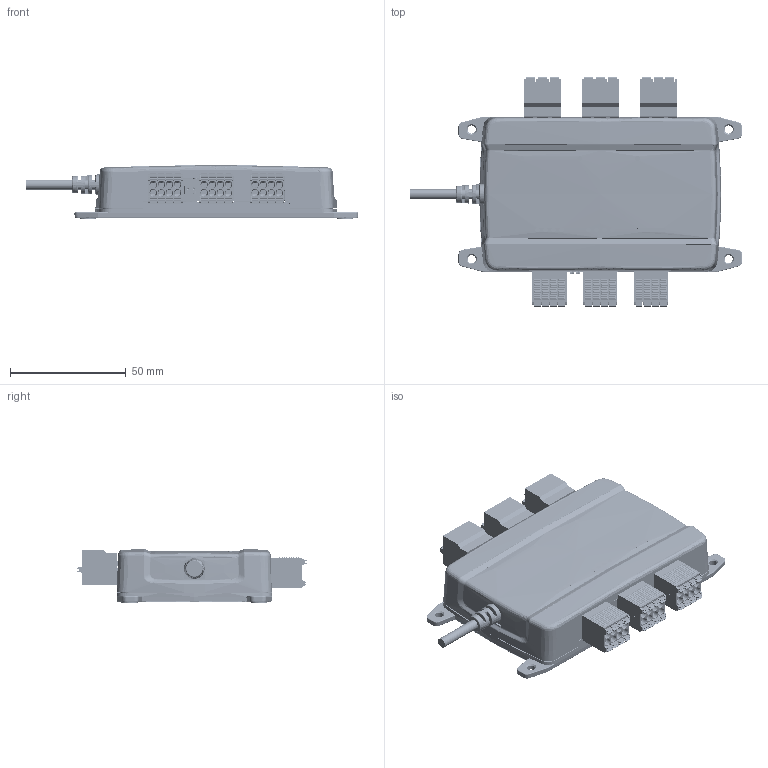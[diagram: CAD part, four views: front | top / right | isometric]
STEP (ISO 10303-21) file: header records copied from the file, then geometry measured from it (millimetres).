
FILE_DESCRIPTION (( 'STEP AP214' ), '1' );
FILE_NAME ('DimensionDrawing GX IO-Extender 150-rev00x-3D.STEP', '2025-06-23T08:51:54', ( '' ), ( '' ), 'SwSTEP 2.0', 'SolidWorks 2025', '' );
FILE_SCHEMA (( 'AUTOMOTIVE_DESIGN' ));
Length unit declared in the file: millimetre
Products named in the file (10): 15EDGKNH-3.5-08P-1Y-00A&Z(H); DimensionDrawing GX IO-Extender 150-rev00x-3D; WJ2EDGRC-THT-5.08-03Px; GX IO-Extender 150 A3 with Case; GX_IO-Extender_150_A2_Grommet; DS03-254-02; eBom-FreeParts; MK3-GROMMER; 15EDGRHC-THR-3.5-08P-1Y-1000Z(H)-PA; 2EDGKD-5.08-03P-1Y-00A&Z(H)
Assembly tree (17 placements, depth 4):
  DimensionDrawing GX IO-Extender 150-rev00x-3D
    GX IO-Extender 150 A3 with Case
      GX_IO-Extender_150_A2_Grommet
        MK3-GROMMER
    eBom-FreeParts
    15EDGRHC-THR-3.5-08P-1Y-1000Z(H)-PA  x3
    15EDGKNH-3.5-08P-1Y-00A&Z(H)  x3
    WJ2EDGRC-THT-5.08-03Px  x3
    DS03-254-02
    2EDGKD-5.08-03P-1Y-00A&Z(H)  x3
Bounding box: 143.41 x 98.99 x 23.29 mm (x, y, z)
Volume: 73302 mm3; surface area: 68975.2 mm2
Topology: 35 solids, 37 shells, 9329 faces, 24100 edges, 15246 vertices
Faces by surface type: plane 5785, cylinder 2046, bspline 797, cone 369, torus 238, sphere 94
Entity records: 156452 total; most frequent: CARTESIAN_POINT 51995, ORIENTED_EDGE 23118, DIRECTION 19313, EDGE_CURVE 11559, VECTOR 7689, LINE 7689, VERTEX_POINT 7396, AXIS2_PLACEMENT_3D 5812
